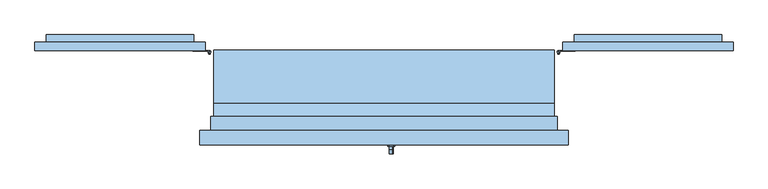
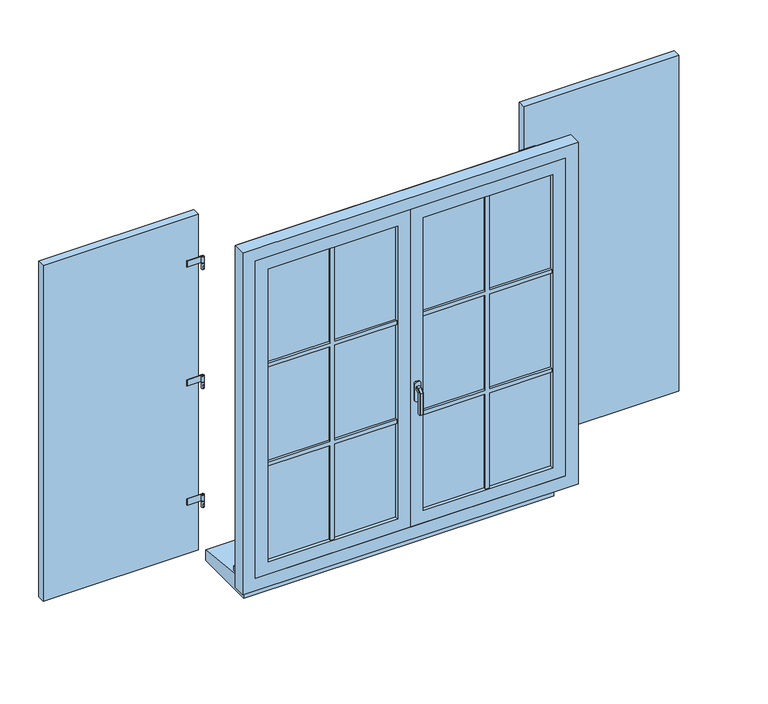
"""IFC4 building model written with IfcOpenShell, lengths in millimetres: window geometry, 2 Vantaux droits - Volets et petits bois : 1.20m x 1.35m - Appui Béton."""

from ifc_helpers import new_model, si_unit, point, frame, frame_2d, origin, place, context, project, spatial, polyline, circle_curve, trimmed, segment, composite_curve, outline, extrude, faceted_brep, source, transform, mapped, element, save
from ifc_brep_helpers import plane_surface, cylinder_surface, advanced_brep


def window_6c080f1b(model_context):
    return source(origin(), model_context, "Body", "SolidModel", [
        extrude(outline(polyline([(-1230.0, 173.0), (-1230.0, 203.0), (-630.0, 203.0), (-630.0, 173.0), (-1230.0, 173.0)])), frame((0.0, 0.0, 775.0), z_axis=(0.0, 0.0, 1.0), x_axis=(1.0, 0.0, 0.0)), (0.0, 0.0, 1.0), 1375.0),
        advanced_brep(
        [(-610.0, 168.0, 975.0), (-620.0, 168.0, 975.0), (-610.0, 168.0, 950.0), (-620.0, 168.0, 950.0), (-617.0, 163.4174243, 955.0), (-617.0, 163.4174243, 965.0), (-613.0, 163.4174243, 965.0), (-613.0, 163.4174243, 955.0), (-613.0, 160.0, 965.0), (-617.0, 160.0, 965.0), (-617.0, 160.0, 955.0), (-613.0, 160.0, 955.0)],
        [
            (0, 1, circle_curve(frame((-615.0, 168.0, 975.0), z_axis=(0.0, 0.0, 1.0), x_axis=(-1.0, 0.0, 0.0)), 5.0)),
            (1, 0, circle_curve(frame((-615.0, 168.0, 975.0), z_axis=(0.0, 0.0, 1.0), x_axis=(-1.0, 0.0, 0.0)), 5.0)),
            (2, 3, circle_curve(frame((-615.0, 168.0, 950.0), z_axis=(0.0, 0.0, -1.0), x_axis=(-1.0, 0.0, 0.0)), 5.0)),
            (3, 2, circle_curve(frame((-615.0, 168.0, 950.0), z_axis=(0.0, 0.0, -1.0), x_axis=(-1.0, 0.0, 0.0)), 5.0)),
            (1, 3),
            (2, 0),
            (4, 5),
            (5, 6, circle_curve(frame((-615.0, 168.0, 965.0), z_axis=(0.0, 0.0, 1.0), x_axis=(-1.0, 0.0, 0.0)), 5.0)),
            (6, 7),
            (7, 4, circle_curve(frame((-615.0, 168.0, 955.0), z_axis=(0.0, 0.0, -1.0), x_axis=(-1.0, 0.0, 0.0)), 5.0)),
            (8, 6),
            (5, 9),
            (9, 8),
            (10, 4),
            (7, 11),
            (11, 10),
            (10, 9),
            (8, 11),
        ],
        [
            plane_surface(frame((-620.0, 168.0, 975.0), z_axis=(0.0, 0.0, 1.0), x_axis=(0.0, 1.0, 0.0))),
            plane_surface(frame((-620.0, 168.0, 950.0), z_axis=(0.0, 0.0, -1.0), x_axis=(0.0, -1.0, 0.0))),
            cylinder_surface(frame((-615.0, 168.0, 950.0), z_axis=(0.0, 0.0, 1.0), x_axis=(-1.0, 0.0, 0.0)), 5.0),
            plane_surface(frame((-617.0, 160.0, 965.0), z_axis=(0.0, 0.0, 1.0), x_axis=(0.0, 1.0, 0.0))),
            plane_surface(frame((-617.0, 160.0, 955.0), z_axis=(0.0, 0.0, -1.0), x_axis=(0.0, -1.0, 0.0))),
            plane_surface(frame((-617.0, 160.0, 965.0), z_axis=(-1.0, 0.0, 0.0), x_axis=(0.0, 0.0, -1.0))),
            plane_surface(frame((-613.0, 165.0, 965.0), z_axis=(1.0, 0.0, 0.0), x_axis=(0.0, 0.0, -1.0))),
            plane_surface(frame((-613.0, 160.0, 965.0), z_axis=(0.0, -1.0, 0.0), x_axis=(0.0, 0.0, -1.0))),
        ],
        [
            (0, [[1, 2]]),
            (1, [[3, 4]]),
            (2, [[5, -3, 6, -2], [7, 8, 9, 10]]),
            (2, [[-6, -4, -5, -1]]),
            (3, [[11, -8, 12, 13]]),
            (4, [[14, -10, 15, 16]]),
            (5, [[-12, -7, -14, 17]]),
            (6, [[-15, -9, -11, 18]]),
            (7, [[-17, -16, -18, -13]]),
        ],
    ),
        extrude(outline(composite_curve([segment(trimmed(circle_curve(frame_2d((-615.0, 168.0)), 5.0), [point((-615.0, 173.0))], [point((-620.0, 168.0))], False, "CARTESIAN"), True, "CONTINUOUS"), segment(polyline([(-620.0, 168.0), (-617.5, 168.0)]), True, "CONTINUOUS"), segment(trimmed(circle_curve(frame_2d((-615.0, 168.0)), 2.5), [point((-617.5, 168.0))], [point((-615.0, 170.5))], True, "CARTESIAN"), True, "CONTINUOUS"), segment(polyline([(-615.0, 170.5), (-674.3092325, 170.5), (-674.3092325, 173.0), (-615.0, 173.0)]), True, "CONTINUOUS")], self_intersect=False)), frame((0.0, 0.0, 975.0), z_axis=(0.0, 0.0, 1.0), x_axis=(1.0, 0.0, 0.0)), (0.0, 0.0, 1.0), 25.0),
        extrude(outline(composite_curve([segment(trimmed(circle_curve(frame_2d((-615.0, 168.0)), 2.5), [point((-612.5, 168.0))], [point((-617.5, 168.0))], False, "CARTESIAN"), True, "CONTINUOUS"), segment(trimmed(circle_curve(frame_2d((-615.0, 168.0)), 2.5), [point((-617.5, 168.0))], [point((-612.5, 168.0))], False, "CARTESIAN"), True, "CONTINUOUS")], self_intersect=False)), frame((0.0, 0.0, 975.0), z_axis=(0.0, 0.0, 1.0), x_axis=(1.0, 0.0, 0.0)), (0.0, 0.0, 1.0), 25.0),
        advanced_brep(
        [(-610.0, 168.0, 1950.0), (-620.0, 168.0, 1950.0), (-610.0, 168.0, 1925.0), (-620.0, 168.0, 1925.0), (-613.0, 163.4174243, 1940.0), (-613.0, 163.4174243, 1930.0), (-617.0, 163.4174243, 1930.0), (-617.0, 163.4174243, 1940.0), (-613.0, 160.0, 1940.0), (-617.0, 160.0, 1940.0), (-613.0, 160.0, 1930.0), (-617.0, 160.0, 1930.0)],
        [
            (0, 1, circle_curve(frame((-615.0, 168.0, 1950.0), z_axis=(0.0, 0.0, 1.0), x_axis=(-1.0, 0.0, 0.0)), 5.0)),
            (1, 0, circle_curve(frame((-615.0, 168.0, 1950.0), z_axis=(0.0, 0.0, 1.0), x_axis=(-1.0, 0.0, 0.0)), 5.0)),
            (2, 3, circle_curve(frame((-615.0, 168.0, 1925.0), z_axis=(0.0, 0.0, -1.0), x_axis=(-1.0, 0.0, 0.0)), 5.0)),
            (3, 2, circle_curve(frame((-615.0, 168.0, 1925.0), z_axis=(0.0, 0.0, -1.0), x_axis=(-1.0, 0.0, 0.0)), 5.0)),
            (1, 3),
            (2, 0),
            (4, 5),
            (5, 6, circle_curve(frame((-615.0, 168.0, 1930.0), z_axis=(0.0, 0.0, -1.0), x_axis=(-1.0, 0.0, 0.0)), 5.0)),
            (6, 7),
            (7, 4, circle_curve(frame((-615.0, 168.0, 1940.0), z_axis=(0.0, 0.0, 1.0), x_axis=(-1.0, 0.0, 0.0)), 5.0)),
            (8, 4),
            (7, 9),
            (9, 8),
            (10, 11),
            (11, 6),
            (5, 10),
            (9, 11),
            (10, 8),
        ],
        [
            plane_surface(frame((-620.0, 168.0, 1950.0), z_axis=(0.0, 0.0, 1.0), x_axis=(0.0, 1.0, 0.0))),
            plane_surface(frame((-620.0, 168.0, 1925.0), z_axis=(0.0, 0.0, -1.0), x_axis=(0.0, -1.0, 0.0))),
            cylinder_surface(frame((-615.0, 168.0, 1925.0), z_axis=(0.0, 0.0, 1.0), x_axis=(-1.0, 0.0, 0.0)), 5.0),
            plane_surface(frame((-613.0, 160.0, 1940.0), z_axis=(0.0, 0.0, 1.0), x_axis=(-1.0, 0.0, 0.0))),
            plane_surface(frame((-613.0, 160.0, 1930.0), z_axis=(0.0, 0.0, -1.0), x_axis=(1.0, 0.0, 0.0))),
            plane_surface(frame((-613.0, 160.0, 1940.0), z_axis=(0.0, -1.0, 0.0), x_axis=(0.0, 0.0, -1.0))),
            plane_surface(frame((-617.0, 160.0, 1940.0), z_axis=(-1.0, 0.0, 0.0), x_axis=(0.0, 0.0, -1.0))),
            plane_surface(frame((-613.0, 163.4174243, 1940.0), z_axis=(1.0, 0.0, 0.0), x_axis=(0.0, 0.0, -1.0))),
        ],
        [
            (0, [[1, 2]]),
            (1, [[3, 4]]),
            (2, [[5, -3, 6, -2], [7, 8, 9, 10]]),
            (2, [[-6, -4, -5, -1]]),
            (3, [[11, -10, 12, 13]]),
            (4, [[14, 15, -8, 16]]),
            (5, [[17, -14, 18, -13]]),
            (6, [[-9, -15, -17, -12]]),
            (7, [[-18, -16, -7, -11]]),
        ],
    ),
        extrude(outline(polyline([(-613.0, 160.0), (-617.0, 160.0), (-617.0, 163.4174243), (-613.0, 163.4174243), (-613.0, 160.0)])), frame((0.0, 0.0, 1442.5), z_axis=(0.0, 0.0, 1.0), x_axis=(1.0, 0.0, 0.0)), (0.0, 0.0, 1.0), 10.0),
        extrude(outline(composite_curve([segment(trimmed(circle_curve(frame_2d((-615.0, 168.0)), 5.0), [point((-615.0, 173.0))], [point((-620.0, 168.0))], False, "CARTESIAN"), True, "CONTINUOUS"), segment(polyline([(-620.0, 168.0), (-617.5, 168.0)]), True, "CONTINUOUS"), segment(trimmed(circle_curve(frame_2d((-615.0, 168.0)), 2.5), [point((-617.5, 168.0))], [point((-612.5, 168.0))], True, "CARTESIAN"), True, "CONTINUOUS"), segment(trimmed(circle_curve(frame_2d((-615.0, 168.0)), 2.5), [point((-612.5, 168.0))], [point((-615.0, 170.5))], True, "CARTESIAN"), True, "CONTINUOUS"), segment(polyline([(-615.0, 170.5), (-674.3092325, 170.5), (-674.3092325, 173.0), (-615.0, 173.0)]), True, "CONTINUOUS")], self_intersect=False)), frame((0.0, 0.0, 1462.5), z_axis=(0.0, 0.0, 1.0), x_axis=(1.0, 0.0, 0.0)), (0.0, 0.0, 1.0), 25.0),
        extrude(outline(composite_curve([segment(trimmed(circle_curve(frame_2d((-615.0, 168.0)), 2.5), [point((-612.5, 168.0))], [point((-617.5, 168.0))], False, "CARTESIAN"), True, "CONTINUOUS"), segment(trimmed(circle_curve(frame_2d((-615.0, 168.0)), 2.5), [point((-617.5, 168.0))], [point((-612.5, 168.0))], False, "CARTESIAN"), True, "CONTINUOUS")], self_intersect=False)), frame((0.0, 0.0, 1462.5), z_axis=(0.0, 0.0, 1.0), x_axis=(1.0, 0.0, 0.0)), (0.0, 0.0, 1.0), 25.0),
        extrude(outline(composite_curve([segment(trimmed(circle_curve(frame_2d((-615.0, 168.0)), 5.0), [point((-610.0, 168.0))], [point((-620.0, 168.0))], False, "CARTESIAN"), True, "CONTINUOUS"), segment(trimmed(circle_curve(frame_2d((-615.0, 168.0)), 5.0), [point((-620.0, 168.0))], [point((-610.0, 168.0))], False, "CARTESIAN"), True, "CONTINUOUS")], self_intersect=False)), frame((0.0, 0.0, 1437.5), z_axis=(0.0, 0.0, 1.0), x_axis=(1.0, 0.0, 0.0)), (0.0, 0.0, 1.0), 25.0),
        extrude(outline(composite_curve([segment(trimmed(circle_curve(frame_2d((-615.0, 168.0)), 5.0), [point((-615.0, 173.0))], [point((-620.0, 168.0))], False, "CARTESIAN"), True, "CONTINUOUS"), segment(polyline([(-620.0, 168.0), (-617.5, 168.0)]), True, "CONTINUOUS"), segment(trimmed(circle_curve(frame_2d((-615.0, 168.0)), 2.5), [point((-617.5, 168.0))], [point((-615.0, 170.5))], True, "CARTESIAN"), True, "CONTINUOUS"), segment(polyline([(-615.0, 170.5), (-674.3092325, 170.5), (-674.3092325, 173.0), (-615.0, 173.0)]), True, "CONTINUOUS")], self_intersect=False)), frame((0.0, 0.0, 1950.0), z_axis=(0.0, 0.0, 1.0), x_axis=(1.0, 0.0, 0.0)), (0.0, 0.0, 1.0), 25.0),
        extrude(outline(composite_curve([segment(trimmed(circle_curve(frame_2d((-615.0, 168.0)), 2.5), [point((-612.5, 168.0))], [point((-617.5, 168.0))], False, "CARTESIAN"), True, "CONTINUOUS"), segment(trimmed(circle_curve(frame_2d((-615.0, 168.0)), 2.5), [point((-617.5, 168.0))], [point((-612.5, 168.0))], False, "CARTESIAN"), True, "CONTINUOUS")], self_intersect=False)), frame((0.0, 0.0, 1950.0), z_axis=(0.0, 0.0, 1.0), x_axis=(1.0, 0.0, 0.0)), (0.0, 0.0, 1.0), 25.0),
        extrude(outline(polyline([(1910.0, -1190.0), (1015.0, -758.801371), (1015.0, -670.0007252), (1910.0, -1101.1993542), (1910.0, -1190.0)])), frame((0.0, 203.0, 0.0), z_axis=(0.0, 1.0, 0.0), x_axis=(0.0, 0.0, 1.0)), (0.0, 0.0, 1.0), 25.0),
        extrude(outline(polyline([(-670.0, 228.0), (-670.0, 203.0), (-1190.0, 203.0), (-1190.0, 228.0), (-670.0, 228.0)])), frame((0.0, 0.0, 1910.0), z_axis=(0.0, 0.0, 1.0), x_axis=(1.0, 0.0, 0.0)), (0.0, 0.0, 1.0), 80.0),
        extrude(outline(polyline([(-670.0, 228.0), (-670.0, 203.0), (-1190.0, 203.0), (-1190.0, 228.0), (-670.0, 228.0)])), frame((0.0, 0.0, 935.0), z_axis=(0.0, 0.0, 1.0), x_axis=(1.0, 0.0, 0.0)), (0.0, 0.0, 1.0), 80.0),
        extrude(outline(polyline([(1230.0, 173.0), (630.0, 173.0), (630.0, 203.0), (1230.0, 203.0), (1230.0, 173.0)])), frame((0.0, 0.0, 775.0), z_axis=(0.0, 0.0, 1.0), x_axis=(1.0, 0.0, 0.0)), (0.0, 0.0, 1.0), 1375.0),
        advanced_brep(
        [(610.0, 168.0, 975.0), (620.0, 168.0, 975.0), (610.0, 168.0, 950.0), (620.0, 168.0, 950.0), (617.0, 163.4174243, 955.0), (613.0, 163.4174243, 955.0), (613.0, 163.4174243, 965.0), (617.0, 163.4174243, 965.0), (613.0, 160.0, 965.0), (617.0, 160.0, 965.0), (617.0, 160.0, 955.0), (613.0, 160.0, 955.0)],
        [
            (0, 1, circle_curve(frame((615.0, 168.0, 975.0), z_axis=(0.0, 0.0, 1.0), x_axis=(1.0, 0.0, 0.0)), 5.0)),
            (1, 0, circle_curve(frame((615.0, 168.0, 975.0), z_axis=(0.0, 0.0, 1.0), x_axis=(1.0, 0.0, 0.0)), 5.0)),
            (2, 3, circle_curve(frame((615.0, 168.0, 950.0), z_axis=(0.0, 0.0, -1.0), x_axis=(1.0, 0.0, 0.0)), 5.0)),
            (3, 2, circle_curve(frame((615.0, 168.0, 950.0), z_axis=(0.0, 0.0, -1.0), x_axis=(1.0, 0.0, 0.0)), 5.0)),
            (0, 2),
            (3, 1),
            (4, 5, circle_curve(frame((615.0, 168.0, 955.0), z_axis=(0.0, 0.0, -1.0), x_axis=(1.0, 0.0, 0.0)), 5.0)),
            (5, 6),
            (6, 7, circle_curve(frame((615.0, 168.0, 965.0), z_axis=(0.0, 0.0, 1.0), x_axis=(1.0, 0.0, 0.0)), 5.0)),
            (7, 4),
            (8, 9),
            (9, 7),
            (6, 8),
            (10, 11),
            (11, 5),
            (4, 10),
            (9, 10),
            (11, 8),
        ],
        [
            plane_surface(frame((620.0, 168.0, 975.0), z_axis=(0.0, 0.0, 1.0), x_axis=(0.0, 1.0, 0.0))),
            plane_surface(frame((620.0, 168.0, 950.0), z_axis=(0.0, 0.0, -1.0), x_axis=(0.0, -1.0, 0.0))),
            cylinder_surface(frame((615.0, 168.0, 950.0), z_axis=(0.0, 0.0, 1.0), x_axis=(1.0, 0.0, 0.0)), 5.0),
            plane_surface(frame((617.0, 160.0, 965.0), z_axis=(0.0, 0.0, 1.0), x_axis=(0.0, 1.0, 0.0))),
            plane_surface(frame((617.0, 160.0, 955.0), z_axis=(0.0, 0.0, -1.0), x_axis=(0.0, -1.0, 0.0))),
            plane_surface(frame((617.0, 160.0, 965.0), z_axis=(1.0, 0.0, 0.0), x_axis=(0.0, 0.0, -1.0))),
            plane_surface(frame((613.0, 165.0, 965.0), z_axis=(-1.0, 0.0, 0.0), x_axis=(0.0, 0.0, -1.0))),
            plane_surface(frame((613.0, 160.0, 965.0), z_axis=(0.0, -1.0, 0.0), x_axis=(0.0, 0.0, -1.0))),
        ],
        [
            (0, [[1, 2]]),
            (1, [[3, 4]]),
            (2, [[-1, 5, -4, 6], [7, 8, 9, 10]]),
            (2, [[-2, -6, -3, -5]]),
            (3, [[11, 12, -9, 13]]),
            (4, [[14, 15, -7, 16]]),
            (5, [[17, -16, -10, -12]]),
            (6, [[18, -13, -8, -15]]),
            (7, [[-11, -18, -14, -17]]),
        ],
    ),
        extrude(outline(composite_curve([segment(polyline([(615.0, 173.0), (674.3092325, 173.0), (674.3092325, 170.5), (615.0, 170.5)]), True, "CONTINUOUS"), segment(trimmed(circle_curve(frame_2d((615.0, 168.0)), 2.5), [point((615.0, 170.5))], [point((617.5, 168.0))], True, "CARTESIAN"), True, "CONTINUOUS"), segment(polyline([(617.5, 168.0), (620.0, 168.0)]), True, "CONTINUOUS"), segment(trimmed(circle_curve(frame_2d((615.0, 168.0)), 5.0), [point((620.0, 168.0))], [point((615.0, 173.0))], False, "CARTESIAN"), True, "CONTINUOUS")], self_intersect=False)), frame((0.0, 0.0, 975.0), z_axis=(0.0, 0.0, 1.0), x_axis=(1.0, 0.0, 0.0)), (0.0, 0.0, 1.0), 25.0),
        extrude(outline(composite_curve([segment(trimmed(circle_curve(frame_2d((615.0, 168.0)), 2.5), [point((612.5, 168.0))], [point((617.5, 168.0))], False, "CARTESIAN"), True, "CONTINUOUS"), segment(trimmed(circle_curve(frame_2d((615.0, 168.0)), 2.5), [point((617.5, 168.0))], [point((612.5, 168.0))], False, "CARTESIAN"), True, "CONTINUOUS")], self_intersect=False)), frame((0.0, 0.0, 975.0), z_axis=(0.0, 0.0, 1.0), x_axis=(1.0, 0.0, 0.0)), (0.0, 0.0, 1.0), 25.0),
        advanced_brep(
        [(610.0, 168.0, 1950.0), (620.0, 168.0, 1950.0), (610.0, 168.0, 1925.0), (620.0, 168.0, 1925.0), (613.0, 163.4174243, 1940.0), (617.0, 163.4174243, 1940.0), (617.0, 163.4174243, 1930.0), (613.0, 163.4174243, 1930.0), (613.0, 160.0, 1940.0), (617.0, 160.0, 1940.0), (613.0, 160.0, 1930.0), (617.0, 160.0, 1930.0)],
        [
            (0, 1, circle_curve(frame((615.0, 168.0, 1950.0), z_axis=(0.0, 0.0, 1.0), x_axis=(1.0, 0.0, 0.0)), 5.0)),
            (1, 0, circle_curve(frame((615.0, 168.0, 1950.0), z_axis=(0.0, 0.0, 1.0), x_axis=(1.0, 0.0, 0.0)), 5.0)),
            (2, 3, circle_curve(frame((615.0, 168.0, 1925.0), z_axis=(0.0, 0.0, -1.0), x_axis=(1.0, 0.0, 0.0)), 5.0)),
            (3, 2, circle_curve(frame((615.0, 168.0, 1925.0), z_axis=(0.0, 0.0, -1.0), x_axis=(1.0, 0.0, 0.0)), 5.0)),
            (0, 2),
            (3, 1),
            (4, 5, circle_curve(frame((615.0, 168.0, 1940.0), z_axis=(0.0, 0.0, 1.0), x_axis=(1.0, 0.0, 0.0)), 5.0)),
            (5, 6),
            (6, 7, circle_curve(frame((615.0, 168.0, 1930.0), z_axis=(0.0, 0.0, -1.0), x_axis=(1.0, 0.0, 0.0)), 5.0)),
            (7, 4),
            (8, 9),
            (9, 5),
            (4, 8),
            (10, 7),
            (6, 11),
            (11, 10),
            (8, 10),
            (11, 9),
        ],
        [
            plane_surface(frame((620.0, 168.0, 1950.0), z_axis=(0.0, 0.0, 1.0), x_axis=(0.0, 1.0, 0.0))),
            plane_surface(frame((620.0, 168.0, 1925.0), z_axis=(0.0, 0.0, -1.0), x_axis=(0.0, -1.0, 0.0))),
            cylinder_surface(frame((615.0, 168.0, 1925.0), z_axis=(0.0, 0.0, 1.0), x_axis=(1.0, 0.0, 0.0)), 5.0),
            plane_surface(frame((613.0, 160.0, 1940.0), z_axis=(0.0, 0.0, 1.0), x_axis=(1.0, 0.0, 0.0))),
            plane_surface(frame((613.0, 160.0, 1930.0), z_axis=(0.0, 0.0, -1.0), x_axis=(-1.0, 0.0, 0.0))),
            plane_surface(frame((613.0, 160.0, 1940.0), z_axis=(0.0, -1.0, 0.0), x_axis=(0.0, 0.0, -1.0))),
            plane_surface(frame((617.0, 160.0, 1940.0), z_axis=(1.0, 0.0, 0.0), x_axis=(0.0, 0.0, -1.0))),
            plane_surface(frame((613.0, 163.4174243, 1940.0), z_axis=(-1.0, 0.0, 0.0), x_axis=(0.0, 0.0, -1.0))),
        ],
        [
            (0, [[1, 2]]),
            (1, [[3, 4]]),
            (2, [[-1, 5, -4, 6], [7, 8, 9, 10]]),
            (2, [[-2, -6, -3, -5]]),
            (3, [[11, 12, -7, 13]]),
            (4, [[14, -9, 15, 16]]),
            (5, [[-11, 17, -16, 18]]),
            (6, [[-12, -18, -15, -8]]),
            (7, [[-13, -10, -14, -17]]),
        ],
    ),
        extrude(outline(polyline([(613.0, 160.0), (613.0, 163.4174243), (617.0, 163.4174243), (617.0, 160.0), (613.0, 160.0)])), frame((0.0, 0.0, 1442.5), z_axis=(0.0, 0.0, 1.0), x_axis=(1.0, 0.0, 0.0)), (0.0, 0.0, 1.0), 10.0),
        extrude(outline(composite_curve([segment(polyline([(615.0, 173.0), (674.3092325, 173.0), (674.3092325, 170.5), (615.0, 170.5)]), True, "CONTINUOUS"), segment(trimmed(circle_curve(frame_2d((615.0, 168.0)), 2.5), [point((615.0, 170.5))], [point((612.5, 168.0))], True, "CARTESIAN"), True, "CONTINUOUS"), segment(trimmed(circle_curve(frame_2d((615.0, 168.0)), 2.5), [point((612.5, 168.0))], [point((617.5, 168.0))], True, "CARTESIAN"), True, "CONTINUOUS"), segment(polyline([(617.5, 168.0), (620.0, 168.0)]), True, "CONTINUOUS"), segment(trimmed(circle_curve(frame_2d((615.0, 168.0)), 5.0), [point((620.0, 168.0))], [point((615.0, 173.0))], False, "CARTESIAN"), True, "CONTINUOUS")], self_intersect=False)), frame((0.0, 0.0, 1462.5), z_axis=(0.0, 0.0, 1.0), x_axis=(1.0, 0.0, 0.0)), (0.0, 0.0, 1.0), 25.0),
        extrude(outline(composite_curve([segment(trimmed(circle_curve(frame_2d((615.0, 168.0)), 2.5), [point((612.5, 168.0))], [point((617.5, 168.0))], False, "CARTESIAN"), True, "CONTINUOUS"), segment(trimmed(circle_curve(frame_2d((615.0, 168.0)), 2.5), [point((617.5, 168.0))], [point((612.5, 168.0))], False, "CARTESIAN"), True, "CONTINUOUS")], self_intersect=False)), frame((0.0, 0.0, 1462.5), z_axis=(0.0, 0.0, 1.0), x_axis=(1.0, 0.0, 0.0)), (0.0, 0.0, 1.0), 25.0),
        extrude(outline(composite_curve([segment(trimmed(circle_curve(frame_2d((615.0, 168.0)), 5.0), [point((610.0, 168.0))], [point((620.0, 168.0))], False, "CARTESIAN"), True, "CONTINUOUS"), segment(trimmed(circle_curve(frame_2d((615.0, 168.0)), 5.0), [point((620.0, 168.0))], [point((610.0, 168.0))], False, "CARTESIAN"), True, "CONTINUOUS")], self_intersect=False)), frame((0.0, 0.0, 1437.5), z_axis=(0.0, 0.0, 1.0), x_axis=(1.0, 0.0, 0.0)), (0.0, 0.0, 1.0), 25.0),
        extrude(outline(composite_curve([segment(polyline([(615.0, 173.0), (674.3092325, 173.0), (674.3092325, 170.5), (615.0, 170.5)]), True, "CONTINUOUS"), segment(trimmed(circle_curve(frame_2d((615.0, 168.0)), 2.5), [point((615.0, 170.5))], [point((617.5, 168.0))], True, "CARTESIAN"), True, "CONTINUOUS"), segment(polyline([(617.5, 168.0), (620.0, 168.0)]), True, "CONTINUOUS"), segment(trimmed(circle_curve(frame_2d((615.0, 168.0)), 5.0), [point((620.0, 168.0))], [point((615.0, 173.0))], False, "CARTESIAN"), True, "CONTINUOUS")], self_intersect=False)), frame((0.0, 0.0, 1950.0), z_axis=(0.0, 0.0, 1.0), x_axis=(1.0, 0.0, 0.0)), (0.0, 0.0, 1.0), 25.0),
        extrude(outline(composite_curve([segment(trimmed(circle_curve(frame_2d((615.0, 168.0)), 2.5), [point((612.5, 168.0))], [point((617.5, 168.0))], False, "CARTESIAN"), True, "CONTINUOUS"), segment(trimmed(circle_curve(frame_2d((615.0, 168.0)), 2.5), [point((617.5, 168.0))], [point((612.5, 168.0))], False, "CARTESIAN"), True, "CONTINUOUS")], self_intersect=False)), frame((0.0, 0.0, 1950.0), z_axis=(0.0, 0.0, 1.0), x_axis=(1.0, 0.0, 0.0)), (0.0, 0.0, 1.0), 25.0),
        extrude(outline(polyline([(1910.0, 1190.0), (1910.0, 1101.1993542), (1015.0, 670.0007252), (1015.0, 758.801371), (1910.0, 1190.0)])), frame((0.0, 203.0, 0.0), z_axis=(0.0, 1.0, 0.0), x_axis=(0.0, 0.0, 1.0)), (0.0, 0.0, 1.0), 25.0),
        extrude(outline(polyline([(670.0, 228.0), (1190.0, 228.0), (1190.0, 203.0), (670.0, 203.0), (670.0, 228.0)])), frame((0.0, 0.0, 1910.0), z_axis=(0.0, 0.0, 1.0), x_axis=(1.0, 0.0, 0.0)), (0.0, 0.0, 1.0), 80.0),
        extrude(outline(polyline([(670.0, 228.0), (1190.0, 228.0), (1190.0, 203.0), (670.0, 203.0), (670.0, 228.0)])), frame((0.0, 0.0, 935.0), z_axis=(0.0, 0.0, 1.0), x_axis=(1.0, 0.0, 0.0)), (0.0, 0.0, 1.0), 80.0),
        extrude(outline(polyline([(1710.0, 550.0), (1710.0, 307.5), (2100.0, 307.5), (2100.0, 292.5), (1710.0, 292.5), (1710.0, 50.0), (1695.0, 50.0), (1695.0, 292.5), (1305.0, 292.5), (1305.0, 50.0), (1290.0, 50.0), (1290.0, 292.5), (900.0, 292.5), (900.0, 307.5), (1290.0, 307.5), (1290.0, 550.0), (1305.0, 550.0), (1305.0, 307.5), (1695.0, 307.5), (1695.0, 550.0), (1710.0, 550.0)])), frame((0.0, -134.0, 0.0), z_axis=(0.0, 1.0, 0.0), x_axis=(0.0, 0.0, 1.0)), (0.0, 0.0, 1.0), 10.0),
        extrude(outline(polyline([(1710.0, 50.0), (1695.0, 50.0), (1695.0, 292.5), (1305.0, 292.5), (1305.0, 50.0), (1290.0, 50.0), (1290.0, 292.5), (900.0, 292.5), (900.0, 307.5), (1290.0, 307.5), (1290.0, 550.0), (1305.0, 550.0), (1305.0, 307.5), (1695.0, 307.5), (1695.0, 550.0), (1710.0, 550.0), (1710.0, 307.5), (2100.0, 307.5), (2100.0, 292.5), (1710.0, 292.5), (1710.0, 50.0)])), frame((0.0, -156.0, 0.0), z_axis=(0.0, 1.0, 0.0), x_axis=(0.0, 0.0, 1.0)), (0.0, 0.0, 1.0), 10.0),
        extrude(outline(polyline([(1710.0, -50.0), (1710.0, -292.5), (2100.0, -292.5), (2100.0, -307.5), (1710.0, -307.5), (1710.0, -550.0), (1695.0, -550.0), (1695.0, -307.5), (1305.0, -307.5), (1305.0, -550.0), (1290.0, -550.0), (1290.0, -307.5), (900.0, -307.5), (900.0, -292.5), (1290.0, -292.5), (1290.0, -50.0), (1305.0, -50.0), (1305.0, -292.5), (1695.0, -292.5), (1695.0, -50.0), (1710.0, -50.0)])), frame((0.0, -134.0, 0.0), z_axis=(0.0, 1.0, 0.0), x_axis=(0.0, 0.0, 1.0)), (0.0, 0.0, 1.0), 10.0),
        extrude(outline(polyline([(1710.0, -550.0), (1695.0, -550.0), (1695.0, -307.5), (1305.0, -307.5), (1305.0, -550.0), (1290.0, -550.0), (1290.0, -307.5), (900.0, -307.5), (900.0, -292.5), (1290.0, -292.5), (1290.0, -50.0), (1305.0, -50.0), (1305.0, -292.5), (1695.0, -292.5), (1695.0, -50.0), (1710.0, -50.0), (1710.0, -292.5), (2100.0, -292.5), (2100.0, -307.5), (1710.0, -307.5), (1710.0, -550.0)])), frame((0.0, -156.0, 0.0), z_axis=(0.0, 1.0, 0.0), x_axis=(0.0, 0.0, 1.0)), (0.0, 0.0, 1.0), 10.0),
        faceted_brep([(30.6460097, -166.0, 1422.0339292), (32.0339292, -166.0, 1420.6460097), (32.0339292, -166.0, 1409.3323012), (30.6676988, -166.0, 1407.9660708), (19.3323012, -166.0, 1407.9660708), (17.9660708, -166.0, 1409.3323012), (17.9660708, -166.0, 1420.6460097), (19.3539903, -166.0, 1422.0339292), (30.6460097, -178.9135489, 1422.0339292), (32.0339292, -178.3386538, 1420.6460097), (32.0339292, -191.6460097, 1407.3386538), (32.0339292, -191.6460097, 1320.0), (32.0339292, -180.3323012, 1320.0), (32.0339292, -180.3323012, 1402.6523623), (32.0339292, -173.6523623, 1409.3323012), (30.6676988, -173.0864511, 1407.9660708), (19.3323012, -173.0864511, 1407.9660708), (17.9660708, -173.6523623, 1409.3323012), (17.9660708, -180.3323012, 1402.6523623), (17.9660708, -180.3323012, 1320.0), (17.9660708, -191.6460097, 1320.0), (17.9660708, -191.6460097, 1407.3386538), (17.9660708, -178.3386538, 1420.6460097), (19.3539903, -178.9135489, 1422.0339292), (30.6460097, -193.0339292, 1407.9135489), (30.6676988, -178.9660708, 1402.0864511), (19.3323012, -178.9660708, 1402.0864511), (19.3539903, -193.0339292, 1407.9135489), (30.6460097, -193.0339292, 1320.0), (19.3539903, -193.0339292, 1320.0), (19.3323012, -178.9660708, 1320.0), (30.6676988, -178.9660708, 1320.0)], [[[0, 1, 2, 3, 4, 5, 6, 7]], [[1, 0, 8, 9]], [[2, 1, 9, 10, 11, 12, 13, 14]], [[3, 2, 14, 15]], [[4, 3, 15, 16]], [[5, 4, 16, 17]], [[6, 5, 17, 18, 19, 20, 21, 22]], [[7, 6, 22, 23]], [[0, 7, 23, 8]], [[9, 8, 24, 10]], [[15, 14, 13, 25]], [[16, 15, 25, 26]], [[17, 16, 26, 18]], [[23, 22, 21, 27]], [[8, 23, 27, 24]], [[28, 29, 20, 19, 30, 31, 12, 11]], [[10, 24, 28, 11]], [[25, 13, 12, 31]], [[26, 25, 31, 30]], [[18, 26, 30, 19]], [[27, 21, 20, 29]], [[24, 27, 29, 28]]]),
        extrude(outline(polyline([(1440.0, 32.0), (1440.0, 18.0), (1435.0, 13.0), (1365.0, 13.0), (1360.0, 18.0), (1360.0, 32.0), (1365.0, 37.0), (1435.0, 37.0), (1440.0, 32.0)])), frame((0.0, -166.0, 0.0), z_axis=(0.0, 1.0, 0.0), x_axis=(0.0, 0.0, 1.0)), (0.0, 0.0, 1.0), 6.0),
        extrude(outline(polyline([(-80.0, 800.0), (-30.0, 800.0), (-30.0, 785.0), (175.0, 763.4536318), (175.0, 720.0), (-80.0, 720.0), (-80.0, 800.0)])), frame((-600.0, 0.0, 0.0), z_axis=(1.0, 0.0, 0.0), x_axis=(0.0, 1.0, 0.0)), (0.0, 0.0, 1.0), 1200.0),
        extrude(outline(polyline([(850.0, 0.0), (2150.0, 0.0), (2150.0, -600.0), (850.0, -600.0), (850.0, 0.0)]), holes=[polyline([(900.0, -550.0), (2100.0, -550.0), (2100.0, -50.0), (900.0, -50.0), (900.0, -550.0)])]), frame((0.0, -160.0, 0.0), z_axis=(0.0, 1.0, 0.0), x_axis=(0.0, 0.0, 1.0)), (0.0, 0.0, 1.0), 40.0),
        extrude(outline(polyline([(50.0, -134.0), (550.0, -134.0), (550.0, -146.0), (50.0, -146.0), (50.0, -134.0)])), frame((0.0, 0.0, 900.0), z_axis=(0.0, 0.0, 1.0), x_axis=(1.0, 0.0, 0.0)), (0.0, 0.0, 1.0), 1200.0),
        extrude(outline(polyline([(-550.0, -134.0), (-50.0, -134.0), (-50.0, -146.0), (-550.0, -146.0), (-550.0, -134.0)])), frame((0.0, 0.0, 900.0), z_axis=(0.0, 0.0, 1.0), x_axis=(1.0, 0.0, 0.0)), (0.0, 0.0, 1.0), 1200.0),
        extrude(outline(polyline([(850.0, 600.0), (2150.0, 600.0), (2150.0, 0.0), (850.0, 0.0), (850.0, 600.0)]), holes=[polyline([(900.0, 50.0), (2100.0, 50.0), (2100.0, 550.0), (900.0, 550.0), (900.0, 50.0)])]), frame((0.0, -160.0, 0.0), z_axis=(0.0, 1.0, 0.0), x_axis=(0.0, 0.0, 1.0)), (0.0, 0.0, 1.0), 40.0),
        faceted_brep([(-650.0, -160.0, 800.0), (-650.0, -110.0, 800.0), (-600.0, -110.0, 800.0), (-600.0, -25.0, 800.0), (600.0, -25.0, 800.0), (600.0, -110.0, 800.0), (650.0, -110.0, 800.0), (650.0, -160.0, 800.0), (-650.0, -160.0, 2200.0), (-650.0, -110.0, 2200.0), (650.0, -110.0, 2200.0), (600.0, -110.0, 839.3761425), (-600.0, -110.0, 839.3761425), (-585.0, -110.0, 2135.0), (-585.0, -110.0, 865.0), (585.0, -110.0, 865.0), (585.0, -110.0, 2135.0), (-600.0, -15.0, 813.9209692), (-600.0, -15.0, 795.0), (-600.0, -25.0, 795.0), (600.0, -25.0, 795.0), (600.0, -15.0, 795.0), (600.0, -15.0, 813.9209692), (650.0, -160.0, 2200.0), (600.0, -160.0, 2150.0), (600.0, -160.0, 850.0), (-600.0, -160.0, 850.0), (-600.0, -160.0, 2150.0), (-585.0, -120.0, 2135.0), (-585.0, -120.0, 865.0), (585.0, -120.0, 865.0), (585.0, -120.0, 2135.0), (600.0, -120.0, 2150.0), (-600.0, -120.0, 2150.0), (-600.0, -120.0, 850.0), (600.0, -120.0, 850.0)], [[[0, 1, 2, 3, 4, 5, 6, 7]], [[1, 0, 8, 9]], [[1, 9, 10, 6, 5, 11, 12, 2], [13, 14, 15, 16]], [[12, 17, 18, 19, 3, 2]], [[3, 19, 20, 4]], [[4, 20, 21, 22, 11, 5]], [[6, 10, 23, 7]], [[0, 7, 23, 8], [24, 25, 26, 27]], [[13, 28, 29, 14]], [[29, 30, 15, 14]], [[31, 16, 15, 30]], [[17, 12, 11, 22]], [[32, 33, 34, 35], [28, 31, 30, 29]], [[34, 33, 27, 26]], [[26, 25, 35, 34]], [[24, 32, 35, 25]], [[18, 17, 22, 21]], [[19, 18, 21, 20]], [[13, 16, 31, 28]], [[33, 32, 24, 27]], [[10, 9, 8, 23]]]),
        extrude(outline(polyline([(800.0, -610.0), (800.0, -600.0), (2150.0, -600.0), (2150.0, 600.0), (800.0, 600.0), (800.0, 610.0), (2160.0, 610.0), (2160.0, -610.0), (800.0, -610.0)])), frame((0.0, -110.0, 0.0), z_axis=(0.0, 1.0, 0.0), x_axis=(0.0, 0.0, 1.0)), (0.0, 0.0, 1.0), 50.0),
        extrude(outline(polyline([(20.0, -112.0), (20.0, -120.0), (-20.0, -120.0), (-20.0, -112.0), (20.0, -112.0)])), frame((0.0, 0.0, 865.0), z_axis=(0.0, 0.0, 1.0), x_axis=(1.0, 0.0, 0.0)), (0.0, 0.0, 1.0), 1270.0),
    ])


if __name__ == "__main__":
    model = new_model("IFC4")
    model_context = context("Model", 3, world=origin())
    ifc_project = project(units=[si_unit("LENGTHUNIT", "METRE", prefix="MILLI")], contexts=[model_context])
    site = spatial("IfcSite", under=ifc_project)
    building = spatial("IfcBuilding", under=site)
    placement = place(None, origin())
    window_shape = window_6c080f1b(model_context)
    element("IfcWindow", 1, ObjectType="2 Vantaux droits - Volets et petits bois : 1.20m x 1.35m - Appui Béton", at=placement, inside=building, context=model_context, shape_type="MappedRepresentation", body=[
        mapped(window_shape, transform((0.0, 0.0, 0.0), x_axis=(1.0, 0.0, 0.0), y_axis=(0.0, 1.0, 0.0), z_axis=(0.0, 0.0, 1.0))),
    ])
    save(model, "model.ifc")
